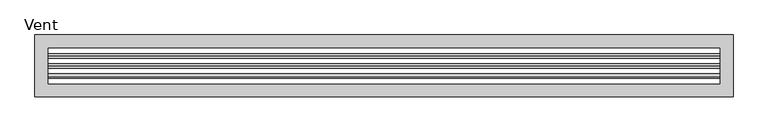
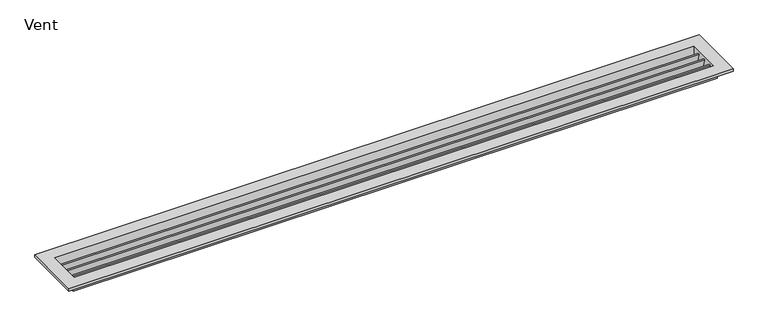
"""IFC4 building model written with IfcOpenShell, lengths in millimetres: air terminal geometry, Fire-Products_Fire-Protection_Regency-Fireplace_Ventilation-Grill : Vent."""

from ifc_helpers import new_model, si_unit, frame, origin, place, context, project, spatial, polyline, outline, extrude, faceted_brep, source, transform, mapped, element, save


def vent_3c922fcf(model_context):
    return source(origin(), model_context, "Body", "SolidModel", [
        extrude(outline(polyline([(17.72931, 0.0), (23.0882939, -20.0), (19.9632939, -20.0), (14.60431, 0.0), (17.72931, 0.0)])), frame((-629.92, 0.0, 0.0), z_axis=(1.0, 0.0, 0.0), x_axis=(0.0, 1.0, 0.0)), (0.0, 0.0, 1.0), 1259.84),
        extrude(outline(polyline([(-1.1169919, 0.0), (4.2419919, -20.0), (1.1169919, -20.0), (-4.2419919, 0.0), (-1.1169919, 0.0)])), frame((-629.92, 0.0, 0.0), z_axis=(1.0, 0.0, 0.0), x_axis=(0.0, 1.0, 0.0)), (0.0, 0.0, 1.0), 1259.84),
        extrude(outline(polyline([(-19.9632939, 0.0), (-14.60431, -20.0), (-17.72931, -20.0), (-23.0882939, 0.0), (-19.9632939, 0.0)])), frame((-629.92, 0.0, 0.0), z_axis=(1.0, 0.0, 0.0), x_axis=(0.0, 1.0, 0.0)), (0.0, 0.0, 1.0), 1259.84),
        faceted_brep([(635.0, -38.1, -20.0), (635.0, -38.1, 0.0), (-635.0, -38.1, 0.0), (-635.0, -38.1, -20.0), (630.0, -33.1, 5.0), (630.0, -33.1, -20.0), (-630.0, -33.1, -20.0), (-630.0, -33.1, 5.0), (655.0, -58.1, 0.0), (655.0, -58.1, 5.0), (-655.0, -58.1, 5.0), (-655.0, -58.1, 0.0), (-635.0, 38.1, 0.0), (-635.0, 38.1, -20.0), (-630.0, 33.1, -20.0), (-630.0, 33.1, 5.0), (-655.0, 58.1, 5.0), (-655.0, 58.1, 0.0), (635.0, 38.1, 0.0), (635.0, 38.1, -20.0), (630.0, 33.1, -20.0), (630.0, 33.1, 5.0), (655.0, 58.1, 5.0), (655.0, 58.1, 0.0)], [[[0, 1, 2, 3]], [[4, 5, 6, 7]], [[8, 9, 10, 11]], [[3, 2, 12, 13]], [[7, 6, 14, 15]], [[11, 10, 16, 17]], [[13, 12, 18, 19]], [[15, 14, 20, 21]], [[17, 16, 22, 23]], [[11, 17, 23, 8], [1, 18, 12, 2]], [[19, 18, 1, 0]], [[3, 13, 19, 0], [5, 20, 14, 6]], [[21, 20, 5, 4]], [[9, 22, 16, 10], [7, 15, 21, 4]], [[23, 22, 9, 8]]]),
    ])


if __name__ == "__main__":
    model = new_model("IFC4")
    model_context = context("Model", 3, world=origin())
    ifc_project = project(units=[si_unit("LENGTHUNIT", "METRE", prefix="MILLI")], contexts=[model_context])
    site = spatial("IfcSite", under=ifc_project)
    building = spatial("IfcBuilding", under=site)
    placement = place(None, origin())
    vent_shape = vent_3c922fcf(model_context)
    element("IfcAirTerminal", 1, ObjectType="Fire-Products_Fire-Protection_Regency-Fireplace_Ventilation-Grill : Vent", at=placement, inside=building, context=model_context, shape_type="MappedRepresentation", body=[
        mapped(vent_shape, transform((0.0, 0.0, 0.0), x_axis=(1.0, 0.0, 0.0), y_axis=(0.0, 1.0, 0.0), z_axis=(0.0, 0.0, 1.0))),
    ])
    save(model, "model.ifc")
